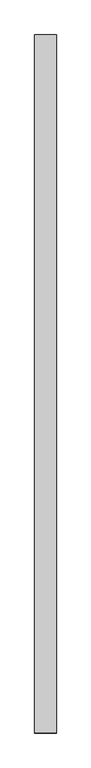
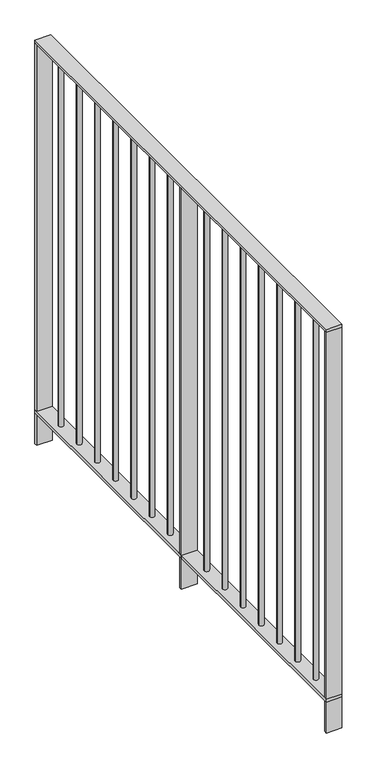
"""IFC4 building model written with IfcOpenShell, lengths in millimetres: railing geometry, BARANDA HIERRO ALTURA 1.20m 1.42."""

from ifc_helpers import new_model, si_unit, point, frame, frame_2d, origin, place, context, project, spatial, polyline, circle_curve, trimmed, segment, composite_curve, outline, extrude, source, transform, mapped, element, save


def railing_a982a51b(model_context):
    return source(origin(), model_context, "Body", "SweptSolid", [
        extrude(outline(polyline([(7284.7173693, 7372.2304035), (7240.7173693, 7372.2304035), (7240.7173693, 8792.2304035), (7284.7173693, 8792.2304035), (7284.7173693, 7372.2304035)])), frame((0.0, 0.0, 3402.0), z_axis=(0.0, 0.0, 1.0), x_axis=(1.0, 0.0, 0.0)), (0.0, 0.0, 1.0), 8.0),
        extrude(outline(polyline([(7284.7173693, 7372.2304035), (7240.7173693, 7372.2304035), (7240.7173693, 8792.2304035), (7284.7173693, 8792.2304035), (7284.7173693, 7372.2304035)])), frame((0.0, 0.0, 4502.0), z_axis=(0.0, 0.0, 1.0), x_axis=(1.0, 0.0, 0.0)), (0.0, 0.0, 1.0), 8.0),
        extrude(outline(composite_curve([segment(trimmed(circle_curve(frame_2d((7262.7173693, 8703.4804035)), 7.0), [point((7255.7173693, 8703.4804035))], [point((7269.7173693, 8703.4804035))], False, "CARTESIAN"), True, "CONTINUOUS"), segment(trimmed(circle_curve(frame_2d((7262.7173693, 8703.4804035)), 7.0), [point((7269.7173693, 8703.4804035))], [point((7255.7173693, 8703.4804035))], False, "CARTESIAN"), True, "CONTINUOUS")], self_intersect=False)), frame((0.0, 0.0, 3410.0), z_axis=(0.0, 0.0, 1.0), x_axis=(1.0, 0.0, 0.0)), (0.0, 0.0, 1.0), 1092.0),
        extrude(outline(composite_curve([segment(trimmed(circle_curve(frame_2d((7262.7173693, 8614.7304035)), 7.0), [point((7255.7173693, 8614.7304035))], [point((7269.7173693, 8614.7304035))], False, "CARTESIAN"), True, "CONTINUOUS"), segment(trimmed(circle_curve(frame_2d((7262.7173693, 8614.7304035)), 7.0), [point((7269.7173693, 8614.7304035))], [point((7255.7173693, 8614.7304035))], False, "CARTESIAN"), True, "CONTINUOUS")], self_intersect=False)), frame((0.0, 0.0, 3410.0), z_axis=(0.0, 0.0, 1.0), x_axis=(1.0, 0.0, 0.0)), (0.0, 0.0, 1.0), 1092.0),
        extrude(outline(composite_curve([segment(trimmed(circle_curve(frame_2d((7262.7173693, 8525.9804035)), 7.0), [point((7255.7173693, 8525.9804035))], [point((7269.7173693, 8525.9804035))], False, "CARTESIAN"), True, "CONTINUOUS"), segment(trimmed(circle_curve(frame_2d((7262.7173693, 8525.9804035)), 7.0), [point((7269.7173693, 8525.9804035))], [point((7255.7173693, 8525.9804035))], False, "CARTESIAN"), True, "CONTINUOUS")], self_intersect=False)), frame((0.0, 0.0, 3410.0), z_axis=(0.0, 0.0, 1.0), x_axis=(1.0, 0.0, 0.0)), (0.0, 0.0, 1.0), 1092.0),
        extrude(outline(composite_curve([segment(trimmed(circle_curve(frame_2d((7262.7173693, 8437.2304035)), 7.0), [point((7255.7173693, 8437.2304035))], [point((7269.7173693, 8437.2304035))], False, "CARTESIAN"), True, "CONTINUOUS"), segment(trimmed(circle_curve(frame_2d((7262.7173693, 8437.2304035)), 7.0), [point((7269.7173693, 8437.2304035))], [point((7255.7173693, 8437.2304035))], False, "CARTESIAN"), True, "CONTINUOUS")], self_intersect=False)), frame((0.0, 0.0, 3410.0), z_axis=(0.0, 0.0, 1.0), x_axis=(1.0, 0.0, 0.0)), (0.0, 0.0, 1.0), 1092.0),
        extrude(outline(composite_curve([segment(trimmed(circle_curve(frame_2d((7262.7173693, 8348.4804035)), 7.0), [point((7255.7173693, 8348.4804035))], [point((7269.7173693, 8348.4804035))], False, "CARTESIAN"), True, "CONTINUOUS"), segment(trimmed(circle_curve(frame_2d((7262.7173693, 8348.4804035)), 7.0), [point((7269.7173693, 8348.4804035))], [point((7255.7173693, 8348.4804035))], False, "CARTESIAN"), True, "CONTINUOUS")], self_intersect=False)), frame((0.0, 0.0, 3410.0), z_axis=(0.0, 0.0, 1.0), x_axis=(1.0, 0.0, 0.0)), (0.0, 0.0, 1.0), 1092.0),
        extrude(outline(composite_curve([segment(trimmed(circle_curve(frame_2d((7262.7173693, 8259.7304035)), 7.0), [point((7255.7173693, 8259.7304035))], [point((7269.7173693, 8259.7304035))], False, "CARTESIAN"), True, "CONTINUOUS"), segment(trimmed(circle_curve(frame_2d((7262.7173693, 8259.7304035)), 7.0), [point((7269.7173693, 8259.7304035))], [point((7255.7173693, 8259.7304035))], False, "CARTESIAN"), True, "CONTINUOUS")], self_intersect=False)), frame((0.0, 0.0, 3410.0), z_axis=(0.0, 0.0, 1.0), x_axis=(1.0, 0.0, 0.0)), (0.0, 0.0, 1.0), 1092.0),
        extrude(outline(composite_curve([segment(trimmed(circle_curve(frame_2d((7262.7173693, 8170.9804035)), 7.0), [point((7255.7173693, 8170.9804035))], [point((7269.7173693, 8170.9804035))], False, "CARTESIAN"), True, "CONTINUOUS"), segment(trimmed(circle_curve(frame_2d((7262.7173693, 8170.9804035)), 7.0), [point((7269.7173693, 8170.9804035))], [point((7255.7173693, 8170.9804035))], False, "CARTESIAN"), True, "CONTINUOUS")], self_intersect=False)), frame((0.0, 0.0, 3410.0), z_axis=(0.0, 0.0, 1.0), x_axis=(1.0, 0.0, 0.0)), (0.0, 0.0, 1.0), 1092.0),
        extrude(outline(polyline([(7284.7173693, 8078.2304035), (7240.7173693, 8078.2304035), (7240.7173693, 8086.2304035), (7284.7173693, 8086.2304035), (7284.7173693, 8078.2304035)])), frame((0.0, 0.0, 3310.0), z_axis=(0.0, 0.0, 1.0), x_axis=(1.0, 0.0, 0.0)), (0.0, 0.0, 1.0), 1192.0),
        extrude(outline(composite_curve([segment(trimmed(circle_curve(frame_2d((7262.7173693, 7993.4804035)), 7.0), [point((7255.7173693, 7993.4804035))], [point((7269.7173693, 7993.4804035))], False, "CARTESIAN"), True, "CONTINUOUS"), segment(trimmed(circle_curve(frame_2d((7262.7173693, 7993.4804035)), 7.0), [point((7269.7173693, 7993.4804035))], [point((7255.7173693, 7993.4804035))], False, "CARTESIAN"), True, "CONTINUOUS")], self_intersect=False)), frame((0.0, 0.0, 3410.0), z_axis=(0.0, 0.0, 1.0), x_axis=(1.0, 0.0, 0.0)), (0.0, 0.0, 1.0), 1092.0),
        extrude(outline(composite_curve([segment(trimmed(circle_curve(frame_2d((7262.7173693, 7904.7304035)), 7.0), [point((7255.7173693, 7904.7304035))], [point((7269.7173693, 7904.7304035))], False, "CARTESIAN"), True, "CONTINUOUS"), segment(trimmed(circle_curve(frame_2d((7262.7173693, 7904.7304035)), 7.0), [point((7269.7173693, 7904.7304035))], [point((7255.7173693, 7904.7304035))], False, "CARTESIAN"), True, "CONTINUOUS")], self_intersect=False)), frame((0.0, 0.0, 3410.0), z_axis=(0.0, 0.0, 1.0), x_axis=(1.0, 0.0, 0.0)), (0.0, 0.0, 1.0), 1092.0),
        extrude(outline(composite_curve([segment(trimmed(circle_curve(frame_2d((7262.7173693, 7815.9804035)), 7.0), [point((7255.7173693, 7815.9804035))], [point((7269.7173693, 7815.9804035))], False, "CARTESIAN"), True, "CONTINUOUS"), segment(trimmed(circle_curve(frame_2d((7262.7173693, 7815.9804035)), 7.0), [point((7269.7173693, 7815.9804035))], [point((7255.7173693, 7815.9804035))], False, "CARTESIAN"), True, "CONTINUOUS")], self_intersect=False)), frame((0.0, 0.0, 3410.0), z_axis=(0.0, 0.0, 1.0), x_axis=(1.0, 0.0, 0.0)), (0.0, 0.0, 1.0), 1092.0),
        extrude(outline(composite_curve([segment(trimmed(circle_curve(frame_2d((7262.7173693, 7727.2304035)), 7.0), [point((7255.7173693, 7727.2304035))], [point((7269.7173693, 7727.2304035))], False, "CARTESIAN"), True, "CONTINUOUS"), segment(trimmed(circle_curve(frame_2d((7262.7173693, 7727.2304035)), 7.0), [point((7269.7173693, 7727.2304035))], [point((7255.7173693, 7727.2304035))], False, "CARTESIAN"), True, "CONTINUOUS")], self_intersect=False)), frame((0.0, 0.0, 3410.0), z_axis=(0.0, 0.0, 1.0), x_axis=(1.0, 0.0, 0.0)), (0.0, 0.0, 1.0), 1092.0),
        extrude(outline(composite_curve([segment(trimmed(circle_curve(frame_2d((7262.7173693, 7638.4804035)), 7.0), [point((7255.7173693, 7638.4804035))], [point((7269.7173693, 7638.4804035))], False, "CARTESIAN"), True, "CONTINUOUS"), segment(trimmed(circle_curve(frame_2d((7262.7173693, 7638.4804035)), 7.0), [point((7269.7173693, 7638.4804035))], [point((7255.7173693, 7638.4804035))], False, "CARTESIAN"), True, "CONTINUOUS")], self_intersect=False)), frame((0.0, 0.0, 3410.0), z_axis=(0.0, 0.0, 1.0), x_axis=(1.0, 0.0, 0.0)), (0.0, 0.0, 1.0), 1092.0),
        extrude(outline(composite_curve([segment(trimmed(circle_curve(frame_2d((7262.7173693, 7549.7304035)), 7.0), [point((7255.7173693, 7549.7304035))], [point((7269.7173693, 7549.7304035))], False, "CARTESIAN"), True, "CONTINUOUS"), segment(trimmed(circle_curve(frame_2d((7262.7173693, 7549.7304035)), 7.0), [point((7269.7173693, 7549.7304035))], [point((7255.7173693, 7549.7304035))], False, "CARTESIAN"), True, "CONTINUOUS")], self_intersect=False)), frame((0.0, 0.0, 3410.0), z_axis=(0.0, 0.0, 1.0), x_axis=(1.0, 0.0, 0.0)), (0.0, 0.0, 1.0), 1092.0),
        extrude(outline(composite_curve([segment(trimmed(circle_curve(frame_2d((7262.7173693, 7460.9804035)), 7.0), [point((7255.7173693, 7460.9804035))], [point((7269.7173693, 7460.9804035))], False, "CARTESIAN"), True, "CONTINUOUS"), segment(trimmed(circle_curve(frame_2d((7262.7173693, 7460.9804035)), 7.0), [point((7269.7173693, 7460.9804035))], [point((7255.7173693, 7460.9804035))], False, "CARTESIAN"), True, "CONTINUOUS")], self_intersect=False)), frame((0.0, 0.0, 3410.0), z_axis=(0.0, 0.0, 1.0), x_axis=(1.0, 0.0, 0.0)), (0.0, 0.0, 1.0), 1092.0),
        extrude(outline(polyline([(7284.7173693, 8784.2304035), (7240.7173693, 8784.2304035), (7240.7173693, 8792.2304035), (7284.7173693, 8792.2304035), (7284.7173693, 8784.2304035)])), frame((0.0, 0.0, 3310.0), z_axis=(0.0, 0.0, 1.0), x_axis=(1.0, 0.0, 0.0)), (0.0, 0.0, 1.0), 1192.0),
        extrude(outline(polyline([(7284.7173693, 7372.2304035), (7240.7173693, 7372.2304035), (7240.7173693, 7380.2304035), (7284.7173693, 7380.2304035), (7284.7173693, 7372.2304035)])), frame((0.0, 0.0, 3310.0), z_axis=(0.0, 0.0, 1.0), x_axis=(1.0, 0.0, 0.0)), (0.0, 0.0, 1.0), 1192.0),
    ])


if __name__ == "__main__":
    model = new_model("IFC4")
    model_context = context("Model", 3, world=origin())
    ifc_project = project(units=[si_unit("LENGTHUNIT", "METRE", prefix="MILLI")], contexts=[model_context])
    site = spatial("IfcSite", under=ifc_project)
    building = spatial("IfcBuilding", under=site)
    placement = place(None, origin())
    railing_shape = railing_a982a51b(model_context)
    element("IfcRailing", 1, ObjectType="BARANDA HIERRO ALTURA 1.20m 1.42", at=placement, inside=building, context=model_context, shape_type="MappedRepresentation", body=[
        mapped(railing_shape, transform((0.0, 0.0, 0.0), x_axis=(1.0, 0.0, 0.0), y_axis=(0.0, 1.0, 0.0), z_axis=(0.0, 0.0, 1.0))),
    ])
    save(model, "model.ifc")
